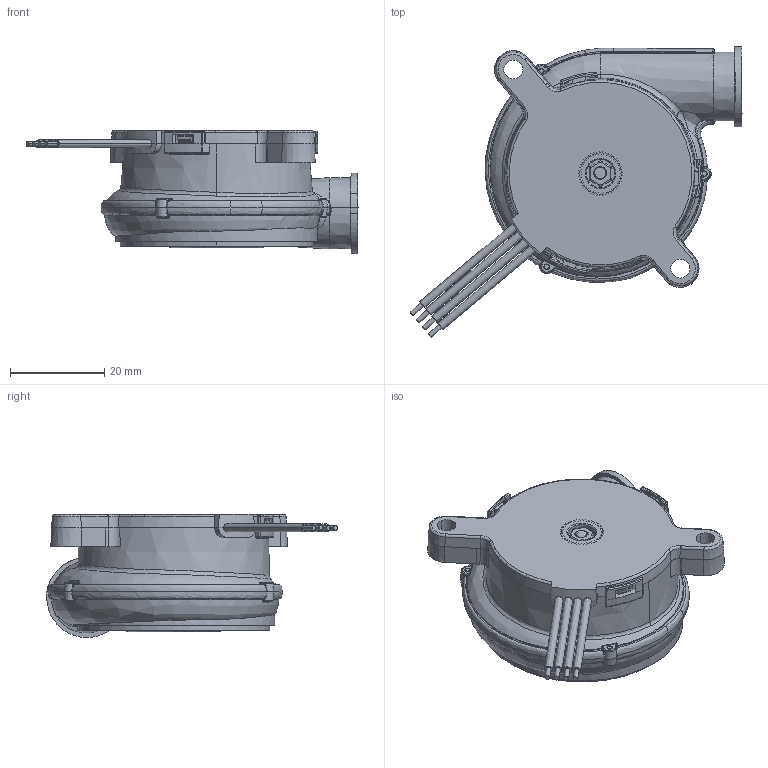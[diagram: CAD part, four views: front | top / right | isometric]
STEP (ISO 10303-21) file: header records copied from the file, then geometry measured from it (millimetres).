
FILE_DESCRIPTION((''),'2;1');
FILE_NAME('ASM1212_ASM','2020-04-28T',('Administrator'),(''),'PRO/ENGINEER BY PARAMETRIC TECHNOLOGY CORPORATION, 2010480','PRO/ENGINEER BY PARAMETRIC TECHNOLOGY CORPORATION, 2010480','');
FILE_SCHEMA(('CONFIG_CONTROL_DESIGN','SHAPE_APPEARANCE_LAYERS_GROUPS'));
Products named in the file (15): DK; CX; PCB_1; XGP_12_20; 625ZZ; V1212-4_1; XC; TK_3; ZHOU; LM; TT; ADMI1C50C27AVZCG; DOWN; ZHONGKE; ASM1212_ASM
Assembly tree (15 placements, depth 2):
  ASM1212_ASM
    DK
    CX
    PCB_1
    XGP_12_20
    625ZZ  x2
    V1212-4_1
    XC
    TK_3
    ZHOU
    LM
    TT
    ADMI1C50C27AVZCG
    DOWN
    ZHONGKE
Bounding box: 70.4 x 61.6 x 26.09 mm (x, y, z)
Volume: 21587 mm3; surface area: 31136.5 mm2
Topology: 18 solids, 18 shells, 2182 faces, 5777 edges, 3637 vertices
Faces by surface type: plane 831, bspline 427, cylinder 357, extrusion 186, cone 176, torus 172, sphere 26, revolution 7
Entity records: 120361 total; most frequent: CARTESIAN_POINT 56079, ORIENTED_EDGE 11482, DIRECTION 8274, EDGE_CURVE 5741, PRESENTATION_STYLE_ASSIGNMENT 4257, STYLED_ITEM 4215, CURVE_STYLE 3713, VERTEX_POINT 3629
